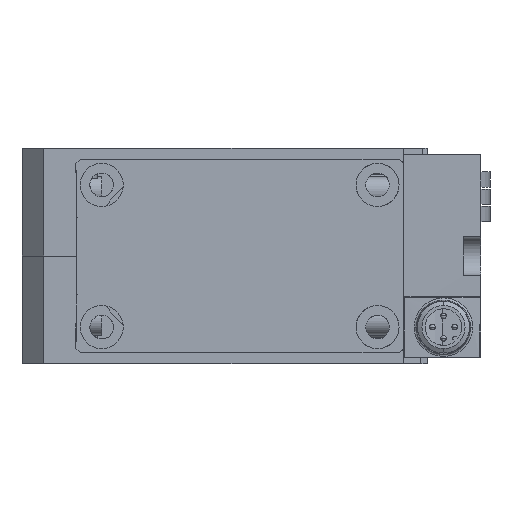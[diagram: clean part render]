
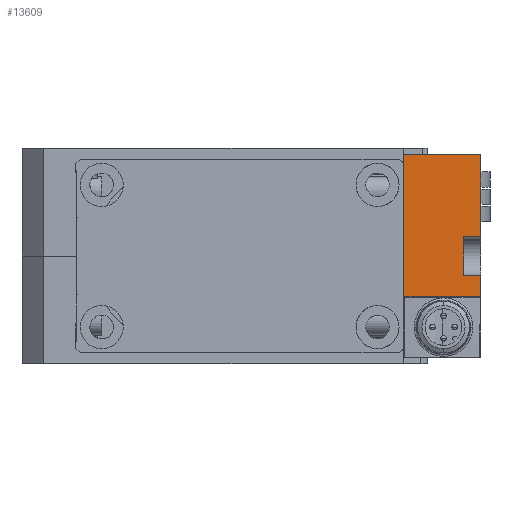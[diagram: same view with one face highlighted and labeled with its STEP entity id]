
A CAD part, front view. The second image highlights one B-rep face of the part: STEP entity #13609.
In plain terms, the highlighted planar face has unit normal (0, -1, 0).
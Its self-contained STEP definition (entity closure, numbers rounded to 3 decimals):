
#84 = LINE ( 'NONE', #14896, #11185 ) ;
#302 = VERTEX_POINT ( 'NONE', #13805 ) ;
#1273 = CARTESIAN_POINT ( 'NONE',  ( 59.5, -98.5, -4.5 ) ) ;
#1909 = CARTESIAN_POINT ( 'NONE',  ( 59.5, -98.5, -4.5 ) ) ;
#2776 = EDGE_LOOP ( 'NONE', ( #20285, #11141, #26921, #7002, #7197, #18454, #12415, #22607 ) ) ;
#2921 = VECTOR ( 'NONE', #11629, 1000. ) ;
#3284 = CARTESIAN_POINT ( 'NONE',  ( 41.6, -98.4, -9.4 ) ) ;
#3409 = CARTESIAN_POINT ( 'NONE',  ( 59.5, -98.5, 23.5 ) ) ;
#3452 = CARTESIAN_POINT ( 'NONE',  ( 59.5, -98.5, -9.5 ) ) ;
#3626 = EDGE_CURVE ( 'NONE', #8533, #302, #19764, .T. ) ;
#4292 = CARTESIAN_POINT ( 'NONE',  ( 59.4, -98.4, -9.4 ) ) ;
#4508 = LINE ( 'NONE', #22711, #9032 ) ;
#4813 = LINE ( 'NONE', #6082, #10714 ) ;
#5296 = PLANE ( 'NONE',  #11347 ) ;
#6082 = CARTESIAN_POINT ( 'NONE',  ( 59.5, -98.5, 23.5 ) ) ;
#6698 = DIRECTION ( 'NONE',  ( 0., 0., -1. ) ) ;
#7002 = ORIENTED_EDGE ( 'NONE', *, *, #13435, .T. ) ;
#7120 = VECTOR ( 'NONE', #13148, 1000. ) ;
#7186 = CARTESIAN_POINT ( 'NONE',  ( 41.5, -98.5, -9.5 ) ) ;
#7197 = ORIENTED_EDGE ( 'NONE', *, *, #27639, .F. ) ;
#7228 = DIRECTION ( 'NONE',  ( 1., 0., 0. ) ) ;
#8079 = VERTEX_POINT ( 'NONE', #21635 ) ;
#8533 = VERTEX_POINT ( 'NONE', #3409 ) ;
#8729 = VERTEX_POINT ( 'NONE', #1273 ) ;
#8831 = LINE ( 'NONE', #7186, #2921 ) ;
#9032 = VECTOR ( 'NONE', #7228, 1000. ) ;
#9221 = EDGE_CURVE ( 'NONE', #8729, #9619, #20803, .T. ) ;
#9619 = VERTEX_POINT ( 'NONE', #17562 ) ;
#10437 = DIRECTION ( 'NONE',  ( -1., 0., 0. ) ) ;
#10714 = VECTOR ( 'NONE', #10437, 1000. ) ;
#10726 = DIRECTION ( 'NONE',  ( -1., 0., 0. ) ) ;
#11141 = ORIENTED_EDGE ( 'NONE', *, *, #22413, .T. ) ;
#11185 = VECTOR ( 'NONE', #17105, 1000. ) ;
#11347 = AXIS2_PLACEMENT_3D ( 'NONE', #3452, #25644, #12350 ) ;
#11629 = DIRECTION ( 'NONE',  ( 0., 0., -1. ) ) ;
#12350 = DIRECTION ( 'NONE',  ( 0., 0., -1. ) ) ;
#12415 = ORIENTED_EDGE ( 'NONE', *, *, #22405, .T. ) ;
#12658 = CARTESIAN_POINT ( 'NONE',  ( 55.5, -98.5, -9.5 ) ) ;
#12975 = VERTEX_POINT ( 'NONE', #22964 ) ;
#13148 = DIRECTION ( 'NONE',  ( 1., 0., 0. ) ) ;
#13435 = EDGE_CURVE ( 'NONE', #14109, #26758, #24106, .T. ) ;
#13609 = ADVANCED_FACE ( 'NONE', ( #16112 ), #5296, .T. ) ;
#13805 = CARTESIAN_POINT ( 'NONE',  ( 59.5, -98.5, 4.5 ) ) ;
#13840 = VECTOR ( 'NONE', #6698, 1000. ) ;
#14109 = VERTEX_POINT ( 'NONE', #3284 ) ;
#14896 = CARTESIAN_POINT ( 'NONE',  ( 59.5, -98.5, -9.5 ) ) ;
#15472 = EDGE_CURVE ( 'NONE', #12975, #14109, #8831, .T. ) ;
#16112 = FACE_OUTER_BOUND ( 'NONE', #2776, .T. ) ;
#17105 = DIRECTION ( 'NONE',  ( 0., 0., -1. ) ) ;
#17562 = CARTESIAN_POINT ( 'NONE',  ( 55.5, -98.5, -4.5 ) ) ;
#17742 = CARTESIAN_POINT ( 'NONE',  ( 59.5, -98.5, -9.5 ) ) ;
#18454 = ORIENTED_EDGE ( 'NONE', *, *, #9221, .T. ) ;
#19341 = DIRECTION ( 'NONE',  ( 0., 0., 1. ) ) ;
#19424 = VECTOR ( 'NONE', #10726, 1000. ) ;
#19764 = LINE ( 'NONE', #17742, #13840 ) ;
#20139 = CARTESIAN_POINT ( 'NONE',  ( 59.5, -98.5, -9.3 ) ) ;
#20285 = ORIENTED_EDGE ( 'NONE', *, *, #3626, .F. ) ;
#20803 = LINE ( 'NONE', #1909, #19424 ) ;
#21526 = EDGE_CURVE ( 'NONE', #8079, #302, #4508, .T. ) ;
#21635 = CARTESIAN_POINT ( 'NONE',  ( 55.5, -98.5, 4.5 ) ) ;
#21787 = VECTOR ( 'NONE', #19341, 1000. ) ;
#22405 = EDGE_CURVE ( 'NONE', #9619, #8079, #27686, .T. ) ;
#22413 = EDGE_CURVE ( 'NONE', #8533, #12975, #4813, .T. ) ;
#22607 = ORIENTED_EDGE ( 'NONE', *, *, #21526, .T. ) ;
#22711 = CARTESIAN_POINT ( 'NONE',  ( 59.5, -98.5, 4.5 ) ) ;
#22964 = CARTESIAN_POINT ( 'NONE',  ( 41.5, -98.5, 23.5 ) ) ;
#24106 = LINE ( 'NONE', #20139, #7120 ) ;
#25644 = DIRECTION ( 'NONE',  ( 0., -1., 0. ) ) ;
#26758 = VERTEX_POINT ( 'NONE', #4292 ) ;
#26921 = ORIENTED_EDGE ( 'NONE', *, *, #15472, .T. ) ;
#27639 = EDGE_CURVE ( 'NONE', #8729, #26758, #84, .T. ) ;
#27686 = LINE ( 'NONE', #12658, #21787 ) ;
